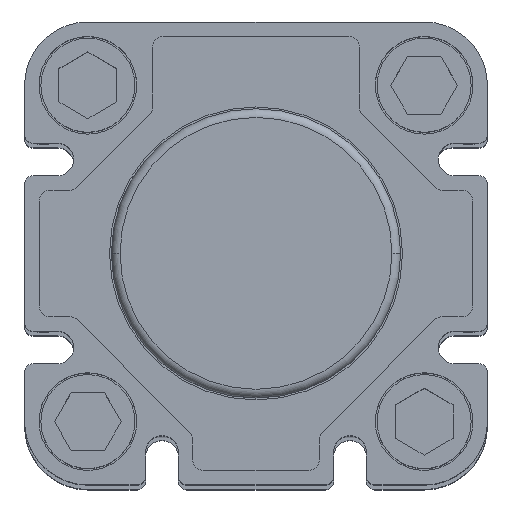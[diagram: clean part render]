
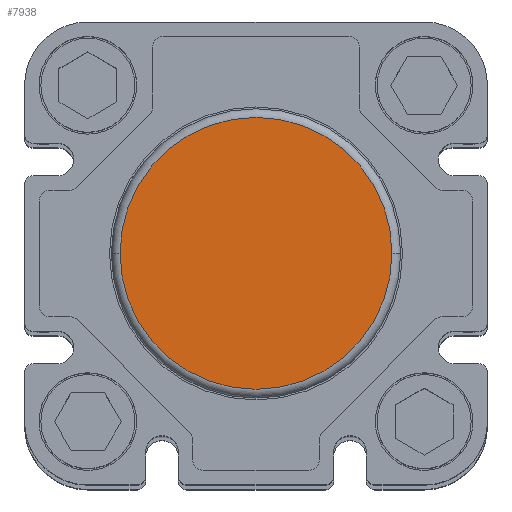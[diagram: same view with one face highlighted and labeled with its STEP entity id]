
A CAD part, top view. The second image highlights one B-rep face of the part: STEP entity #7938.
In plain terms, the highlighted planar face has unit normal (0, 0, 1).
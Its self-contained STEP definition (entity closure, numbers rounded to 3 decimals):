
#1450=CARTESIAN_POINT('',(-5.45,-13.35,380.5));
#1451=VERTEX_POINT('',#1450);
#1459=CARTESIAN_POINT('',(32.15,-13.35,380.5));
#1460=VERTEX_POINT('',#1459);
#1461=CARTESIAN_POINT('',(13.35,-13.35,380.5));
#1462=DIRECTION('',(0.0,0.0,-1.0));
#1463=DIRECTION('',(-1.0,0.0,0.0));
#1464=AXIS2_PLACEMENT_3D('',#1461,#1462,#1463);
#1465=CIRCLE('',#1464,18.8);
#1466=EDGE_CURVE('',#1451,#1460,#1465,.T.);
#7907=CARTESIAN_POINT('',(13.35,-13.35,380.5));
#7908=DIRECTION('',(0.0,0.0,-1.0));
#7909=DIRECTION('',(-1.0,0.0,0.0));
#7910=AXIS2_PLACEMENT_3D('',#7907,#7908,#7909);
#7911=CIRCLE('',#7910,18.8);
#7912=EDGE_CURVE('',#1460,#1451,#7911,.T.);
#7929=CARTESIAN_POINT('',(21.25,-21.25,380.5));
#7930=DIRECTION('',(0.0,0.0,1.0));
#7931=DIRECTION('',(1.0,0.0,0.0));
#7932=AXIS2_PLACEMENT_3D('',#7929,#7930,#7931);
#7933=PLANE('',#7932);
#7934=ORIENTED_EDGE('',*,*,#7912,.F.);
#7935=ORIENTED_EDGE('',*,*,#1466,.F.);
#7936=EDGE_LOOP('',(#7934,#7935));
#7937=FACE_OUTER_BOUND('',#7936,.T.);
#7938=ADVANCED_FACE('',(#7937),#7933,.T.);
